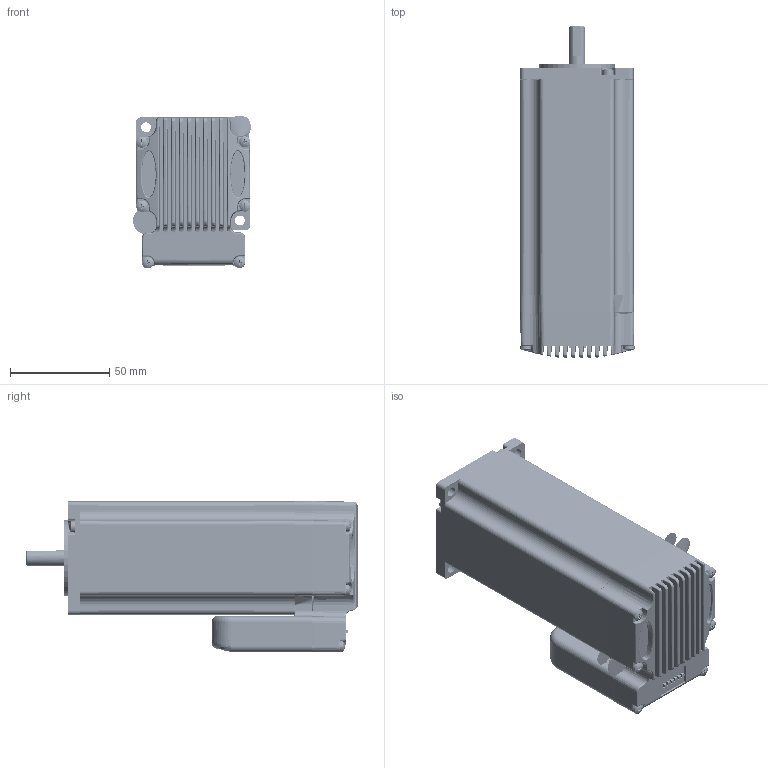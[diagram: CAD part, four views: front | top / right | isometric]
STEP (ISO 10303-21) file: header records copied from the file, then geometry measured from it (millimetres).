
FILE_DESCRIPTION((''),'2;1');
FILE_NAME('ASMISV57T_TY_ASM_ASM','2021-08-30T',('sunjun'),(''),'PRO/ENGINEER BY PARAMETRIC TECHNOLOGY CORPORATION, 2008090','PRO/ENGINEER BY PARAMETRIC TECHNOLOGY CORPORATION, 2008090','');
FILE_SCHEMA(('CONFIG_CONTROL_DESIGN'));
Products named in the file (29): CT_1; 960_1; 57AL_1; QG_1; FPCB_2; CONNECTOR_3_81MM6PIN_MALE_2; CONNECTOR_3_81MMCLOSED2PIN_MALE; 2_1; DPCB_1; BOMA_1; CPCB_2; LS22_2; LS10_2; LS2_5_2; ASM_PCB_ISV57T_ASM_7_ASM; ASMISV57T_TY_ASM_2_ASM; PRT0006; PRT0007; PRODUCT_18641; PRT0008; PRT0009; PRODUCT_14397; PRODUCT_5090; PRODUCT_10110; PRT0010; ____57ZWXB04-21_0803_ASM; _ISV5718V36C-S21V20; ISV5718V36C-S21V20_ASM; ASMISV57T_TY_ASM_ASM
Assembly tree (43 placements, depth 4):
  ASMISV57T_TY_ASM_ASM
    ASMISV57T_TY_ASM_2_ASM
      CT_1
      960_1
      57AL_1
      QG_1
      ASM_PCB_ISV57T_ASM_7_ASM
        FPCB_2
        CONNECTOR_3_81MM6PIN_MALE_2
        CONNECTOR_3_81MMCLOSED2PIN_MALE
        2_1
        DPCB_1
        BOMA_1
        CPCB_2
        LS22_2  x6
        LS10_2  x2
        LS2_5_2  x3
    ISV5718V36C-S21V20_ASM
      ____57ZWXB04-21_0803_ASM
        PRT0006
        PRT0007  x4
        PRODUCT_18641
        PRT0008  x2
        PRT0009  x4
        PRODUCT_14397
        PRODUCT_5090
        PRODUCT_10110
        PRT0010
      _ISV5718V36C-S21V20
Bounding box: 59.45 x 167.27 x 77.08 mm (x, y, z)
Volume: 196634.5 mm3; surface area: 179487.4 mm2
Topology: 37 solids, 38 shells, 3904 faces, 9930 edges, 6070 vertices
Faces by surface type: cone 1506, plane 1128, cylinder 765, sphere 240, torus 196, bspline 69
Full cylindrical faces by diameter (mm): 9.5 x2, 11.5 x2
Entity records: 91377 total; most frequent: CARTESIAN_POINT 26710, ORIENTED_EDGE 13712, DIRECTION 13432, EDGE_CURVE 6857, AXIS2_PLACEMENT_3D 5094, VERTEX_POINT 4408, VECTOR 3244, LINE 3244
